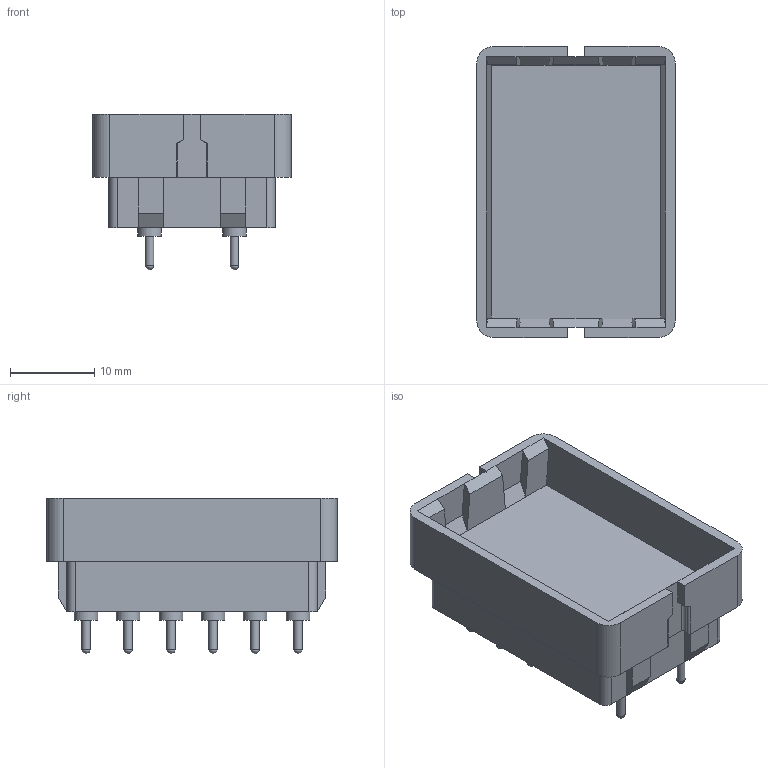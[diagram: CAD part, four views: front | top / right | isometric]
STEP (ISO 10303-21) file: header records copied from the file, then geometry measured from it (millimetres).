
FILE_DESCRIPTION((''),'2;1');
FILE_NAME('K:\TB\Bibliotheek\Inventor\Relais voeten\V14 voet\V14 voet.stp','2008-08-13T12:51:49',('Niriawan'),(''),'Autodesk Inventor 2009','Autodesk Inventor 2009','');
FILE_SCHEMA(('AUTOMOTIVE_DESIGN { 1 0 10303 214 1 1 1 1 }'));
Length unit declared in the file: millimetre
Products named in the file (1): V14 voet
Bounding box: 23.6 x 34.6 x 18.5 mm (x, y, z)
Volume: 5817.8 mm3; surface area: 3926.4 mm2
Topology: 1 solids, 1 shells, 135 faces, 338 edges, 216 vertices
Faces by surface type: plane 89, cylinder 36, sphere 10
Full cylindrical faces by diameter (mm): 1 x10, 2.8 x10
Entity records: 3725 total; most frequent: DIRECTION 632, CARTESIAN_POINT 620, ORIENTED_EDGE 576, EDGE_CURVE 288, VECTOR 216, LINE 216, AXIS2_PLACEMENT_3D 208, VERTEX_POINT 196
